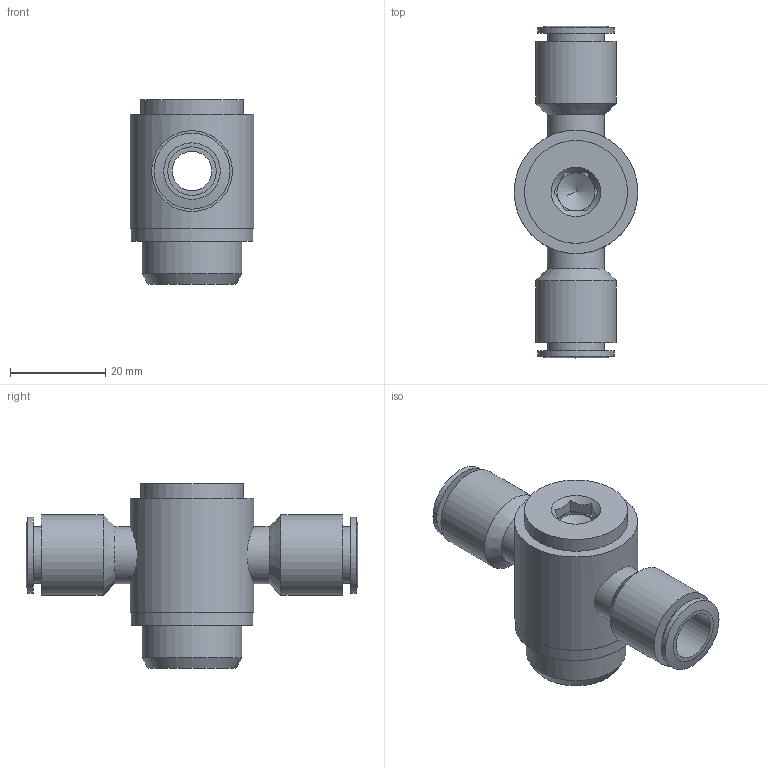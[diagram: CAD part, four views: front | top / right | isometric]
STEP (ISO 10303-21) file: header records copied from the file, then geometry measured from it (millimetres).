
FILE_DESCRIPTION((''),'2;1');
FILE_NAME('C:\Documents and Settings\rivolro1\Documenti\copia di Raccordi\PLASTICA\T16XXXX\T161012.stp','2007-10-31T15:06:53',('Rivolro1'),(''),'Autodesk Inventor 2008','Autodesk Inventor 2008','');
FILE_SCHEMA(('AUTOMOTIVE_DESIGN { 1 0 10303 214 1 1 1 1 }'));
Length unit declared in the file: millimetre
Products named in the file (1): T161012
Bounding box: 26 x 69.8 x 38.8 mm (x, y, z)
Volume: 21609.8 mm3; surface area: 8870.9 mm2
Topology: 1 solids, 1 shells, 48 faces, 101 edges, 65 vertices
Faces by surface type: plane 23, cylinder 13, bspline 7, cone 5
Full cylindrical faces by diameter (mm): 8.3 x1, 11.9 x2, 12 x2, 16 x2, 17 x2, 21 x1, 21.667 x1, 25.6 x1, 26 x1
Entity records: 1386 total; most frequent: CARTESIAN_POINT 444, DIRECTION 180, ORIENTED_EDGE 142, EDGE_LOOP 84, AXIS2_PLACEMENT_3D 81, EDGE_CURVE 71, VERTEX_POINT 59, FACE_OUTER_BOUND 48
